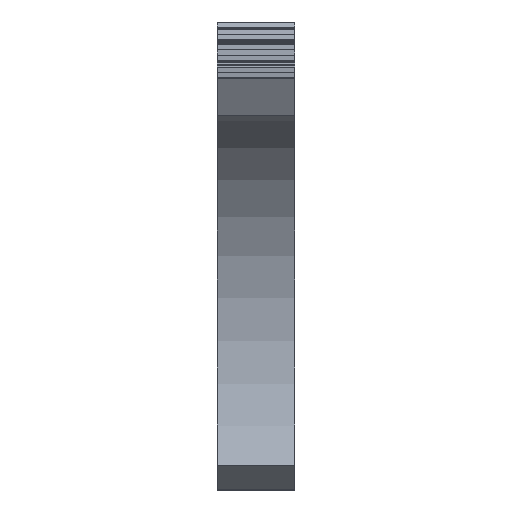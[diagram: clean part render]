
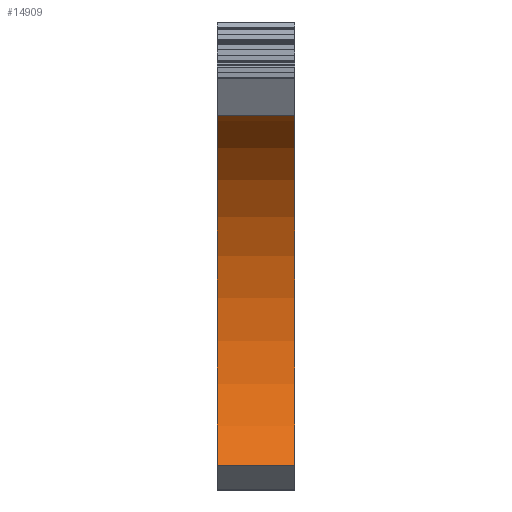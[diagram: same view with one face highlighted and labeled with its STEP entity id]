
A CAD part, front view. The second image highlights one B-rep face of the part: STEP entity #14909.
In plain terms, the highlighted cylindrical face has radius 34 mm (diameter 68 mm), a partial arc.
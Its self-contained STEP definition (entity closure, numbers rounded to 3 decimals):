
#72 = PLANE('',#73);
#73 = AXIS2_PLACEMENT_3D('',#74,#75,#76);
#74 = CARTESIAN_POINT('',(16.5,0.,0.)
  );
#75 = DIRECTION('',(1.,0.,0.));
#76 = DIRECTION('',(0.,1.,0.));
#126 = PLANE('',#127);
#127 = AXIS2_PLACEMENT_3D('',#128,#129,#130);
#128 = CARTESIAN_POINT('',(6.5,0.,0.)
  );
#129 = DIRECTION('',(1.,0.,0.));
#130 = DIRECTION('',(0.,1.,0.));
#9681 = VERTEX_POINT('',#9682);
#9682 = CARTESIAN_POINT('',(16.5,-17.978,28.858));
#9695 = PLANE('',#9696);
#9696 = AXIS2_PLACEMENT_3D('',#9697,#9698,#9699);
#9697 = CARTESIAN_POINT('',(5.5,-25.909,41.59));
#9698 = DIRECTION('',(0.,0.849,0.529));
#9699 = DIRECTION('',(0.,0.529,-0.849));
#9706 = EDGE_CURVE('',#9681,#9707,#9709,.T.);
#9707 = VERTEX_POINT('',#9708);
#9708 = CARTESIAN_POINT('',(16.5,29.717,-16.52));
#9709 = SURFACE_CURVE('',#9710,(#9715,#9726),.PCURVE_S1.);
#9710 = CIRCLE('',#9711,34.);
#9711 = AXIS2_PLACEMENT_3D('',#9712,#9713,#9714);
#9712 = CARTESIAN_POINT('',(16.5,0.,0.));
#9713 = DIRECTION('',(-1.,0.,0.));
#9714 = DIRECTION('',(0.,-0.529,0.849));
#9715 = PCURVE('',#72,#9716);
#9716 = DEFINITIONAL_REPRESENTATION('',(#9717),#9725);
#9717 = ( BOUNDED_CURVE() B_SPLINE_CURVE(2,(#9718,#9719,#9720,#9721,
#9722,#9723,#9724),.UNSPECIFIED.,.T.,.F.) B_SPLINE_CURVE_WITH_KNOTS((1,2
    ,2,2,2,1),(-2.094,0.,2.094,4.189,
6.283,8.378),.UNSPECIFIED.) CURVE() 
GEOMETRIC_REPRESENTATION_ITEM() RATIONAL_B_SPLINE_CURVE((1.,0.5,1.,0.5,
1.,0.5,1.)) REPRESENTATION_ITEM('') );
#9718 = CARTESIAN_POINT('',(-17.978,28.858));
#9719 = CARTESIAN_POINT('',(32.006,59.997));
#9720 = CARTESIAN_POINT('',(33.981,1.14));
#9721 = CARTESIAN_POINT('',(35.955,-57.717));
#9722 = CARTESIAN_POINT('',(-16.003,-29.998));
#9723 = CARTESIAN_POINT('',(-67.962,-2.28));
#9724 = CARTESIAN_POINT('',(-17.978,28.858));
#9725 = ( GEOMETRIC_REPRESENTATION_CONTEXT(2) 
PARAMETRIC_REPRESENTATION_CONTEXT() REPRESENTATION_CONTEXT('2D SPACE',''
  ) );
#9726 = PCURVE('',#9727,#9732);
#9727 = CYLINDRICAL_SURFACE('',#9728,34.);
#9728 = AXIS2_PLACEMENT_3D('',#9729,#9730,#9731);
#9729 = CARTESIAN_POINT('',(5.5,0.,0.));
#9730 = DIRECTION('',(-1.,-0.,-0.));
#9731 = DIRECTION('',(0.,1.,0.));
#9732 = DEFINITIONAL_REPRESENTATION('',(#9733),#9737);
#9733 = LINE('',#9734,#9735);
#9734 = CARTESIAN_POINT('',(-8.411,-11.));
#9735 = VECTOR('',#9736,1.);
#9736 = DIRECTION('',(1.,-0.));
#9737 = ( GEOMETRIC_REPRESENTATION_CONTEXT(2) 
PARAMETRIC_REPRESENTATION_CONTEXT() REPRESENTATION_CONTEXT('2D SPACE',''
  ) );
#9754 = PLANE('',#9755);
#9755 = AXIS2_PLACEMENT_3D('',#9756,#9757,#9758);
#9756 = CARTESIAN_POINT('',(5.5,0.,0.));
#9757 = DIRECTION('',(0.,0.486,0.874));
#9758 = DIRECTION('',(0.,0.874,-0.486));
#14870 = VERTEX_POINT('',#14871);
#14871 = CARTESIAN_POINT('',(6.5,29.717,-16.52));
#14890 = EDGE_CURVE('',#9707,#14870,#14891,.T.);
#14891 = SURFACE_CURVE('',#14892,(#14896,#14902),.PCURVE_S1.);
#14892 = LINE('',#14893,#14894);
#14893 = CARTESIAN_POINT('',(5.5,29.717,-16.52));
#14894 = VECTOR('',#14895,1.);
#14895 = DIRECTION('',(-1.,-0.,-0.));
#14896 = PCURVE('',#9754,#14897);
#14897 = DEFINITIONAL_REPRESENTATION('',(#14898),#14901);
#14898 = B_SPLINE_CURVE_WITH_KNOTS('',1,(#14899,#14900),.UNSPECIFIED.,
  .F.,.F.,(2,2),(-12.,-0.),.PIECEWISE_BEZIER_KNOTS.);
#14899 = CARTESIAN_POINT('',(34.,-12.));
#14900 = CARTESIAN_POINT('',(34.,0.));
#14901 = ( GEOMETRIC_REPRESENTATION_CONTEXT(2) 
PARAMETRIC_REPRESENTATION_CONTEXT() REPRESENTATION_CONTEXT('2D SPACE',''
  ) );
#14902 = PCURVE('',#9727,#14903);
#14903 = DEFINITIONAL_REPRESENTATION('',(#14904),#14907);
#14904 = B_SPLINE_CURVE_WITH_KNOTS('',1,(#14905,#14906),.UNSPECIFIED.,
  .F.,.F.,(2,2),(-11.,-1.),.PIECEWISE_BEZIER_KNOTS.);
#14905 = CARTESIAN_POINT('',(-5.776,-11.));
#14906 = CARTESIAN_POINT('',(-5.776,-1.));
#14907 = ( GEOMETRIC_REPRESENTATION_CONTEXT(2) 
PARAMETRIC_REPRESENTATION_CONTEXT() REPRESENTATION_CONTEXT('2D SPACE',''
  ) );
#14909 = ADVANCED_FACE('',(#14910),#9727,.F.);
#14910 = FACE_BOUND('',#14911,.T.);
#14911 = EDGE_LOOP('',(#14912,#14913,#14934,#14956));
#14912 = ORIENTED_EDGE('',*,*,#9706,.F.);
#14913 = ORIENTED_EDGE('',*,*,#14914,.T.);
#14914 = EDGE_CURVE('',#9681,#14915,#14917,.T.);
#14915 = VERTEX_POINT('',#14916);
#14916 = CARTESIAN_POINT('',(6.5,-17.978,28.858));
#14917 = SURFACE_CURVE('',#14918,(#14922,#14928),.PCURVE_S1.);
#14918 = LINE('',#14919,#14920);
#14919 = CARTESIAN_POINT('',(5.5,-17.978,28.858));
#14920 = VECTOR('',#14921,1.);
#14921 = DIRECTION('',(-1.,-0.,-0.));
#14922 = PCURVE('',#9727,#14923);
#14923 = DEFINITIONAL_REPRESENTATION('',(#14924),#14927);
#14924 = B_SPLINE_CURVE_WITH_KNOTS('',1,(#14925,#14926),.UNSPECIFIED.,
  .F.,.F.,(2,2),(-11.,-1.),.PIECEWISE_BEZIER_KNOTS.);
#14925 = CARTESIAN_POINT('',(-8.411,-11.));
#14926 = CARTESIAN_POINT('',(-8.411,-1.));
#14927 = ( GEOMETRIC_REPRESENTATION_CONTEXT(2) 
PARAMETRIC_REPRESENTATION_CONTEXT() REPRESENTATION_CONTEXT('2D SPACE',''
  ) );
#14928 = PCURVE('',#9695,#14929);
#14929 = DEFINITIONAL_REPRESENTATION('',(#14930),#14933);
#14930 = B_SPLINE_CURVE_WITH_KNOTS('',1,(#14931,#14932),.UNSPECIFIED.,
  .F.,.F.,(2,2),(-12.,0.),.PIECEWISE_BEZIER_KNOTS.);
#14931 = CARTESIAN_POINT('',(15.,-12.));
#14932 = CARTESIAN_POINT('',(15.,0.));
#14933 = ( GEOMETRIC_REPRESENTATION_CONTEXT(2) 
PARAMETRIC_REPRESENTATION_CONTEXT() REPRESENTATION_CONTEXT('2D SPACE',''
  ) );
#14934 = ORIENTED_EDGE('',*,*,#14935,.F.);
#14935 = EDGE_CURVE('',#14870,#14915,#14936,.T.);
#14936 = SURFACE_CURVE('',#14937,(#14942,#14949),.PCURVE_S1.);
#14937 = CIRCLE('',#14938,34.);
#14938 = AXIS2_PLACEMENT_3D('',#14939,#14940,#14941);
#14939 = CARTESIAN_POINT('',(6.5,0.,0.));
#14940 = DIRECTION('',(1.,-0.,0.));
#14941 = DIRECTION('',(0.,0.874,-0.486));
#14942 = PCURVE('',#9727,#14943);
#14943 = DEFINITIONAL_REPRESENTATION('',(#14944),#14948);
#14944 = LINE('',#14945,#14946);
#14945 = CARTESIAN_POINT('',(-5.776,-1.));
#14946 = VECTOR('',#14947,1.);
#14947 = DIRECTION('',(-1.,-0.));
#14948 = ( GEOMETRIC_REPRESENTATION_CONTEXT(2) 
PARAMETRIC_REPRESENTATION_CONTEXT() REPRESENTATION_CONTEXT('2D SPACE',''
  ) );
#14949 = PCURVE('',#126,#14950);
#14950 = DEFINITIONAL_REPRESENTATION('',(#14951),#14955);
#14951 = CIRCLE('',#14952,34.);
#14952 = AXIS2_PLACEMENT_2D('',#14953,#14954);
#14953 = CARTESIAN_POINT('',(0.,0.));
#14954 = DIRECTION('',(0.874,-0.486));
#14955 = ( GEOMETRIC_REPRESENTATION_CONTEXT(2) 
PARAMETRIC_REPRESENTATION_CONTEXT() REPRESENTATION_CONTEXT('2D SPACE',''
  ) );
#14956 = ORIENTED_EDGE('',*,*,#14890,.F.);
